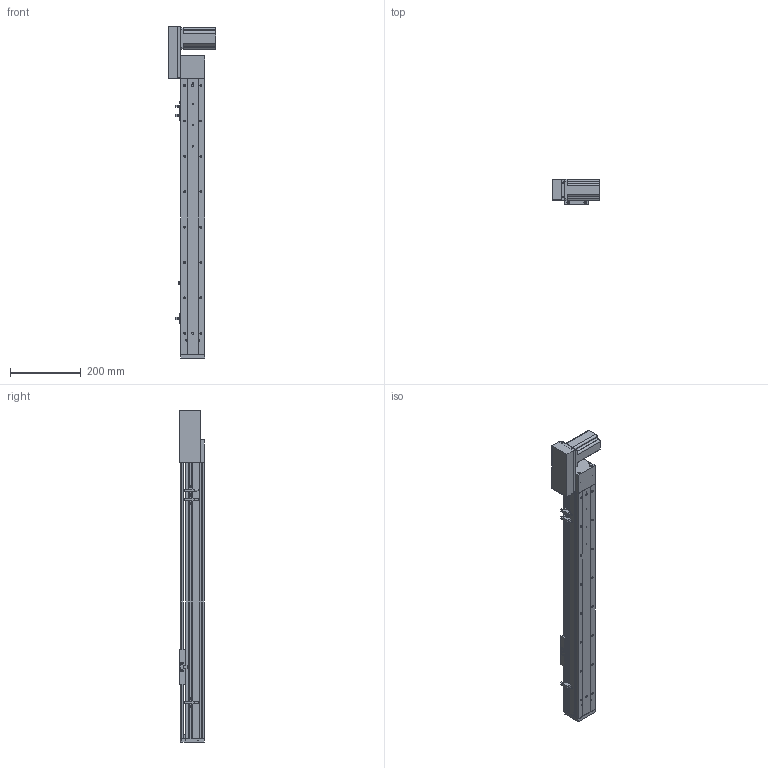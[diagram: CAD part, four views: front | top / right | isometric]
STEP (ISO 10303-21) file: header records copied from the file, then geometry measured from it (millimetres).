
FILE_DESCRIPTION (( 'STEP AP203' ), '1' );
FILE_NAME ('ML68-S600-CR.STEP', '2016-08-04T12:46:54', ( '' ), ( '' ), 'SwSTEP 2.0', 'SolidWorks 2014', '' );
FILE_SCHEMA (( 'CONFIG_CONTROL_DESIGN' ));
Length unit declared in the file: millimetre
Products named in the file (12): ML68滅鳥啣盓傅輸; 換覜ん; ML68-BL傷啣; ML68-S600-CR; ML68傷啣; ML68雄赽釱; QS68左右折电机板罩子; 60換覜結え; QS68酘衵殏萇儂啣; ML68奻裔^ML68-S600-CR; 三协电机MH201N2_預設; 葩璃 ML68菁釱^ML68-S600-CR
Assembly tree (13 placements, depth 2):
  ML68-S600-CR
    葩璃 ML68菁釱^ML68-S600-CR
    ML68奻裔^ML68-S600-CR
    ML68傷啣
    ML68-BL傷啣
    60換覜結え
    換覜ん  x3
    三协电机MH201N2_預設
    ML68雄赽釱
    QS68酘衵殏萇儂啣
    QS68左右折电机板罩子
    ML68滅鳥啣盓傅輸
Bounding box: 133.5 x 70.5 x 938.5 mm (x, y, z)
Volume: 1657193.9 mm3; surface area: 617394.8 mm2
Topology: 13 solids, 13 shells, 923 faces, 2526 edges, 1601 vertices
Faces by surface type: cylinder 422, plane 405, cone 96
Entity records: 29298 total; most frequent: CARTESIAN_POINT 5654, DIRECTION 4788, ORIENTED_EDGE 4552, EDGE_CURVE 2276, AXIS2_PLACEMENT_3D 1731, VERTEX_POINT 1489, VECTOR 1326, LINE 1326
